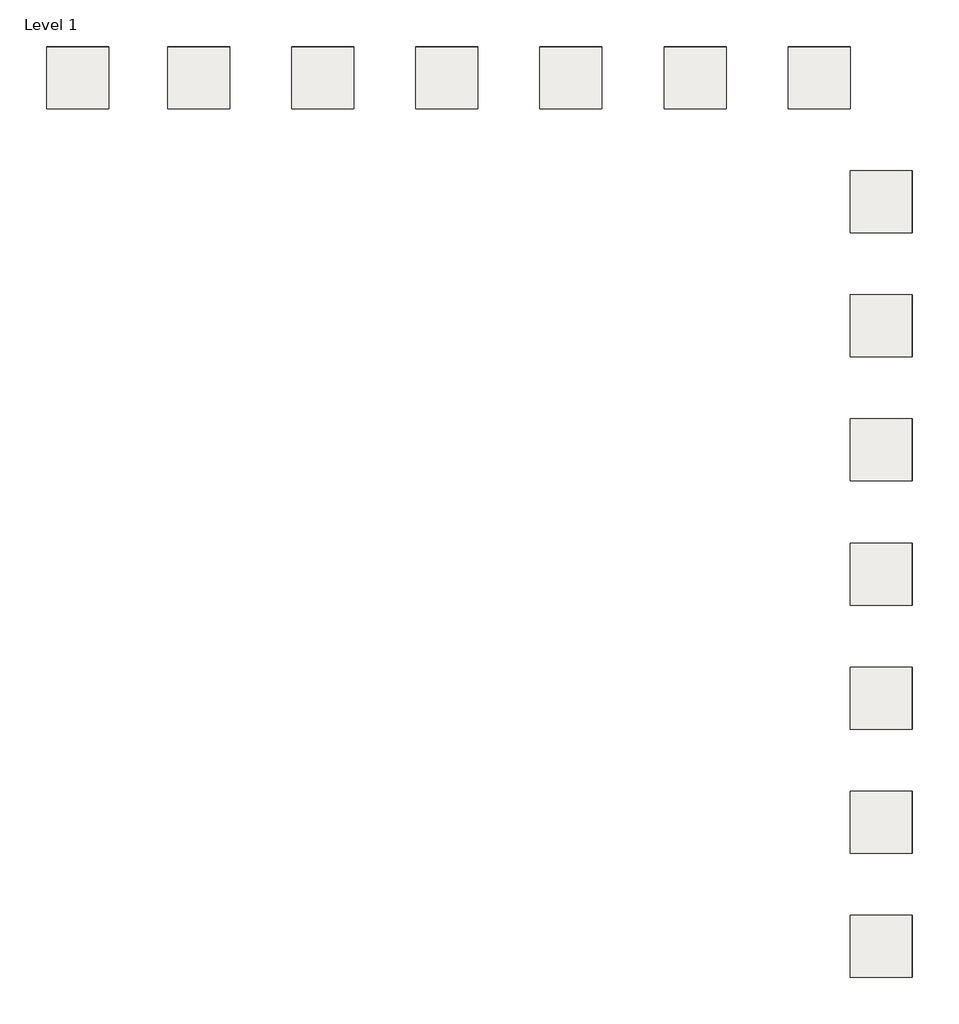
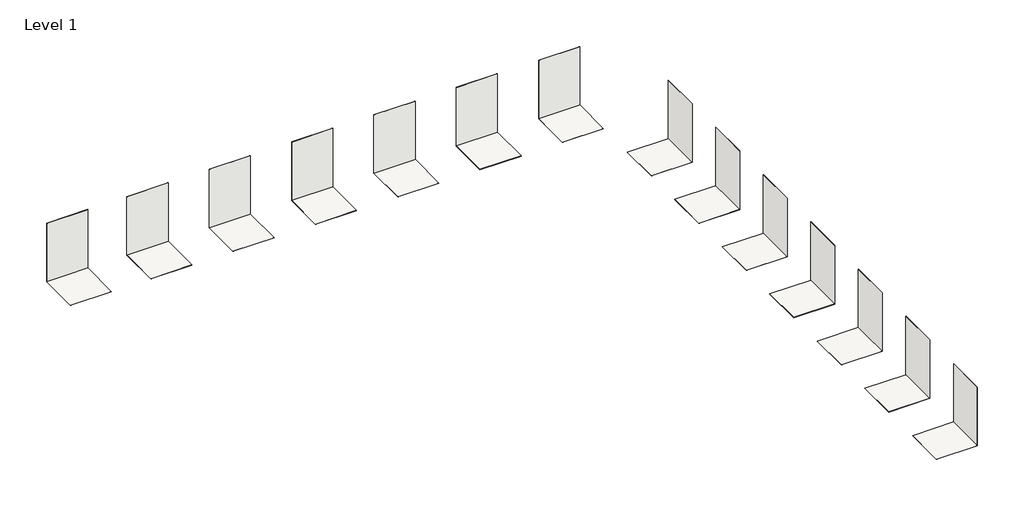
# One storey: 29 coverings.
"""IFC4 building model written with IfcOpenShell, lengths in millimetres."""

from ifc_helpers import new_model, si_unit, frame, origin, origin_with_axes, place, context, project, spatial, polyline, outline, extrude, element, save

model = new_model("IFC4")

# Units and contexts
model_context = context("Model", 3, world=origin())
ifc_project = project(units=[si_unit("LENGTHUNIT", "METRE", prefix="MILLI")], contexts=[model_context])

# Site, building, storey
site = spatial("IfcSite", under=ifc_project)
building = spatial("IfcBuilding", under=site)
storey = spatial("IfcBuildingStorey", under=building, Name="Level 1", Elevation=0.0)

# Coverings
placement = place(None, origin())
element("IfcCovering", 1, ObjectType="PGR_AnticColonial_WoodFibreBoards_Residence_Roble_Decape-193x1380mm-100176288", at=placement, inside=storey, context=model_context, shape_type="SweptSolid", body=[
    extrude(outline(polyline([(3527.0774266, -4501.9826748), (1527.0774266, -4501.9826748), (1527.0774266, -2501.9826748), (3527.0774266, -2501.9826748), (3527.0774266, -4501.9826748)])), frame((0.0, 0.0, -8.0), z_axis=(0.0, 0.0, 1.0), x_axis=(1.0, 0.0, 0.0)), (0.0, 0.0, 1.0), 8.0),
])
element("IfcCovering", 2, ObjectType="PGR_AnticColonial_WoodFibreBoards_Residence_Roble_Decape-193x1380mm-100176288", at=placement, inside=storey, context=model_context, shape_type="SweptSolid", body=[
    extrude(outline(polyline([(3519.0774266, -4501.9826748), (3519.0774266, -2501.9826748), (3527.0774266, -2501.9826748), (3527.0774266, -4501.9826748), (3519.0774266, -4501.9826748)])), origin_with_axes(), (0.0, 0.0, 1.0), 3000.0),
])
element("IfcCovering", 3, ObjectType="PGR_AnticColonial_WoodFibreBoards_Residence_Arizona-193x1380mm-100201388", at=placement, inside=storey, context=model_context, shape_type="SweptSolid", body=[
    extrude(outline(polyline([(3527.0774266, -501.9826748), (1527.0774266, -501.9826748), (1527.0774266, 1498.0173252), (3527.0774266, 1498.0173252), (3527.0774266, -501.9826748)])), frame((0.0, 0.0, -8.0), z_axis=(0.0, 0.0, 1.0), x_axis=(1.0, 0.0, 0.0)), (0.0, 0.0, 1.0), 8.0),
])
element("IfcCovering", 4, ObjectType="PGR_AnticColonial_WoodFibreBoards_Residence_Arizona-193x1380mm-100201388", at=placement, inside=storey, context=model_context, shape_type="SweptSolid", body=[
    extrude(outline(polyline([(3519.0774266, -501.9826748), (3519.0774266, 1498.0173252), (3527.0774266, 1498.0173252), (3527.0774266, -501.9826748), (3519.0774266, -501.9826748)])), origin_with_axes(), (0.0, 0.0, 1.0), 3000.0),
])
element("IfcCovering", 5, ObjectType="PGR_AnticColonial_WoodFibreBoards_Residence_Idaho-193x1380mm-100201389", at=placement, inside=storey, context=model_context, shape_type="SweptSolid", body=[
    extrude(outline(polyline([(3527.0774266, 3498.0173252), (1527.0774266, 3498.0173252), (1527.0774266, 5498.0173252), (3527.0774266, 5498.0173252), (3527.0774266, 3498.0173252)])), frame((0.0, 0.0, -8.0), z_axis=(0.0, 0.0, 1.0), x_axis=(1.0, 0.0, 0.0)), (0.0, 0.0, 1.0), 8.0),
])
element("IfcCovering", 6, ObjectType="PGR_AnticColonial_WoodFibreBoards_Residence_Idaho-193x1380mm-100201389", at=placement, inside=storey, context=model_context, shape_type="SweptSolid", body=[
    extrude(outline(polyline([(3519.0774266, 3498.0173252), (3519.0774266, 5498.0173252), (3527.0774266, 5498.0173252), (3527.0774266, 3498.0173252), (3519.0774266, 3498.0173252)])), origin_with_axes(), (0.0, 0.0, 1.0), 3000.0),
])
element("IfcCovering", 7, ObjectType="PGR_AnticColonial_WoodFibreBoards_Residence_Misuri-193x1380mm-100201397", at=placement, inside=storey, context=model_context, shape_type="SweptSolid", body=[
    extrude(outline(polyline([(3527.0774266, 7498.0173252), (1527.0774266, 7498.0173252), (1527.0774266, 9498.0173252), (3527.0774266, 9498.0173252), (3527.0774266, 7498.0173252)])), frame((0.0, 0.0, -8.0), z_axis=(0.0, 0.0, 1.0), x_axis=(1.0, 0.0, 0.0)), (0.0, 0.0, 1.0), 8.0),
])
element("IfcCovering", 8, ObjectType="PGR_AnticColonial_WoodFibreBoards_Residence_Misuri-193x1380mm-100201397", at=placement, inside=storey, context=model_context, shape_type="SweptSolid", body=[
    extrude(outline(polyline([(3519.0774266, 7498.0173252), (3519.0774266, 9498.0173252), (3527.0774266, 9498.0173252), (3527.0774266, 7498.0173252), (3519.0774266, 7498.0173252)])), origin_with_axes(), (0.0, 0.0, 1.0), 3000.0),
])
element("IfcCovering", 9, ObjectType="PGR_AnticColonial_WoodFibreBoards_Residence_Nogal-193x1380mm-100202966", at=placement, inside=storey, context=model_context, shape_type="SweptSolid", body=[
    extrude(outline(polyline([(3527.0774266, 11498.0173252), (1527.0774266, 11498.0173252), (1527.0774266, 13498.0173252), (3527.0774266, 13498.0173252), (3527.0774266, 11498.0173252)])), frame((0.0, 0.0, -8.0), z_axis=(0.0, 0.0, 1.0), x_axis=(1.0, 0.0, 0.0)), (0.0, 0.0, 1.0), 8.0),
])
element("IfcCovering", 10, ObjectType="PGR_AnticColonial_WoodFibreBoards_Residence_Nogal-193x1380mm-100202966", at=placement, inside=storey, context=model_context, shape_type="SweptSolid", body=[
    extrude(outline(polyline([(3519.0774266, 11498.0173252), (3519.0774266, 13498.0173252), (3527.0774266, 13498.0173252), (3527.0774266, 11498.0173252), (3519.0774266, 11498.0173252)])), origin_with_axes(), (0.0, 0.0, 1.0), 3000.0),
])
element("IfcCovering", 11, ObjectType="PGR_AnticColonial_WoodFibreBoards_Residence_Utah-193x1380mm-100201410", at=placement, inside=storey, context=model_context, shape_type="SweptSolid", body=[
    extrude(outline(polyline([(3527.0774266, 15498.0173252), (1527.0774266, 15498.0173252), (1527.0774266, 17498.0173252), (3527.0774266, 17498.0173252), (3527.0774266, 15498.0173252)])), frame((0.0, 0.0, -8.0), z_axis=(0.0, 0.0, 1.0), x_axis=(1.0, 0.0, 0.0)), (0.0, 0.0, 1.0), 8.0),
])
element("IfcCovering", 12, ObjectType="PGR_AnticColonial_WoodFibreBoards_Residence_Utah-193x1380mm-100201410", at=placement, inside=storey, context=model_context, shape_type="SweptSolid", body=[
    extrude(outline(polyline([(3519.0774266, 15498.0173252), (3519.0774266, 17498.0173252), (3527.0774266, 17498.0173252), (3527.0774266, 15498.0173252), (3519.0774266, 15498.0173252)])), origin_with_axes(), (0.0, 0.0, 1.0), 3000.0),
])
element("IfcCovering", 13, ObjectType="PGR_AnticColonial_WoodFibreBoards_Residence_New_Jersey-193x1380mm-100176290", at=placement, inside=storey, context=model_context, shape_type="SweptSolid", body=[
    extrude(outline(polyline([(3527.0774266, 19498.0173252), (1527.0774266, 19498.0173252), (1527.0774266, 21498.0173252), (3527.0774266, 21498.0173252), (3527.0774266, 19498.0173252)])), frame((0.0, 0.0, -8.0), z_axis=(0.0, 0.0, 1.0), x_axis=(1.0, 0.0, 0.0)), (0.0, 0.0, 1.0), 8.0),
])
element("IfcCovering", 14, ObjectType="PGR_AnticColonial_WoodFibreBoards_Residence_New_Jersey-193x1380mm-100176290", at=placement, inside=storey, context=model_context, shape_type="SweptSolid", body=[
    extrude(outline(polyline([(3519.0774266, 19498.0173252), (3519.0774266, 21498.0173252), (3527.0774266, 21498.0173252), (3527.0774266, 19498.0173252), (3519.0774266, 19498.0173252)])), origin_with_axes(), (0.0, 0.0, 1.0), 3000.0),
])
element("IfcCovering", 15, ObjectType="PGR_AnticColonial_WoodFibreBoards_Residence_Iowa-193x1380mm-100176300", at=placement, inside=storey, context=model_context, shape_type="SweptSolid", body=[
    extrude(outline(polyline([(1527.0774266, 25498.0173252), (1527.0774266, 23498.0173252), (-472.9225734, 23498.0173252), (-472.9225734, 25498.0173252), (1527.0774266, 25498.0173252)])), frame((0.0, 0.0, -8.0), z_axis=(0.0, 0.0, 1.0), x_axis=(1.0, 0.0, 0.0)), (0.0, 0.0, 1.0), 8.0),
])
element("IfcCovering", 16, ObjectType="PGR_AnticColonial_WoodFibreBoards_Residence_Iowa-193x1380mm-100176300", at=placement, inside=storey, context=model_context, shape_type="SweptSolid", body=[
    extrude(outline(polyline([(1527.0774266, 25490.0173252), (-472.9225734, 25490.0173252), (-472.9225734, 25498.0173252), (1527.0774266, 25498.0173252), (1527.0774266, 25490.0173252)])), origin_with_axes(), (0.0, 0.0, 1.0), 3000.0),
])
element("IfcCovering", 17, ObjectType="PGR_AnticColonial_WoodFibreBoards_Residence_Roble-193x1380mm-100176291", at=placement, inside=storey, context=model_context, shape_type="SweptSolid", body=[
    extrude(outline(polyline([(-2472.9225734, 25498.0173252), (-2472.9225734, 23498.0173252), (-4472.9225734, 23498.0173252), (-4472.9225734, 25498.0173252), (-2472.9225734, 25498.0173252)])), frame((0.0, 0.0, -8.0), z_axis=(0.0, 0.0, 1.0), x_axis=(1.0, 0.0, 0.0)), (0.0, 0.0, 1.0), 8.0),
])
element("IfcCovering", 18, ObjectType="PGR_AnticColonial_WoodFibreBoards_Residence_Roble-193x1380mm-100176291", at=placement, inside=storey, context=model_context, shape_type="SweptSolid", body=[
    extrude(outline(polyline([(-2472.9225734, 25490.0173252), (-4472.9225734, 25490.0173252), (-4472.9225734, 25498.0173252), (-2472.9225734, 25498.0173252), (-2472.9225734, 25490.0173252)])), origin_with_axes(), (0.0, 0.0, 1.0), 3000.0),
])
element("IfcCovering", 19, ObjectType="PGR_AnticColonial_WoodFibreBoards_Residence_Vermont-193x1380mm-100176289", at=placement, inside=storey, context=model_context, shape_type="SweptSolid", body=[
    extrude(outline(polyline([(-6472.9225734, 25498.0173252), (-6472.9225734, 23498.0173252), (-8472.9225734, 23498.0173252), (-8472.9225734, 25498.0173252), (-6472.9225734, 25498.0173252)])), frame((0.0, 0.0, -8.0), z_axis=(0.0, 0.0, 1.0), x_axis=(1.0, 0.0, 0.0)), (0.0, 0.0, 1.0), 8.0),
])
element("IfcCovering", 20, ObjectType="PGR_AnticColonial_WoodFibreBoards_Residence_Vermont-193x1380mm-100176289", at=placement, inside=storey, context=model_context, shape_type="SweptSolid", body=[
    extrude(outline(polyline([(-6472.9225734, 25490.0173252), (-8472.9225734, 25490.0173252), (-8472.9225734, 25498.0173252), (-6472.9225734, 25498.0173252), (-6472.9225734, 25490.0173252)])), origin_with_axes(), (0.0, 0.0, 1.0), 3000.0),
])
element("IfcCovering", 21, ObjectType="PGR_AnticColonial_WoodFibreBoards_Residence_Virginia-193x1380mm-100175398", at=placement, inside=storey, context=model_context, shape_type="SweptSolid", body=[
    extrude(outline(polyline([(-10472.9225734, 25498.0173252), (-10472.9225734, 23498.0173252), (-12472.9225734, 23498.0173252), (-12472.9225734, 25498.0173252), (-10472.9225734, 25498.0173252)])), frame((0.0, 0.0, -8.0), z_axis=(0.0, 0.0, 1.0), x_axis=(1.0, 0.0, 0.0)), (0.0, 0.0, 1.0), 8.0),
])
element("IfcCovering", 22, ObjectType="PGR_AnticColonial_WoodFibreBoards_Residence_Virginia-193x1380mm-100175398", at=placement, inside=storey, context=model_context, shape_type="SweptSolid", body=[
    extrude(outline(polyline([(-10472.9225734, 25490.0173252), (-12472.9225734, 25490.0173252), (-12472.9225734, 25498.0173252), (-10472.9225734, 25498.0173252), (-10472.9225734, 25490.0173252)])), origin_with_axes(), (0.0, 0.0, 1.0), 3000.0),
])
element("IfcCovering", 23, ObjectType="PGR_AnticColonial_WoodFibreBoards_Residence_Ohio-193x1380mm-100175399", at=placement, inside=storey, context=model_context, shape_type="SweptSolid", body=[
    extrude(outline(polyline([(-14472.9225734, 25498.0173252), (-14472.9225734, 23498.0173252), (-16472.9225734, 23498.0173252), (-16472.9225734, 25498.0173252), (-14472.9225734, 25498.0173252)])), frame((0.0, 0.0, -8.0), z_axis=(0.0, 0.0, 1.0), x_axis=(1.0, 0.0, 0.0)), (0.0, 0.0, 1.0), 8.0),
])
element("IfcCovering", 24, ObjectType="PGR_AnticColonial_WoodFibreBoards_Residence_Ohio-193x1380mm-100175399", at=placement, inside=storey, context=model_context, shape_type="SweptSolid", body=[
    extrude(outline(polyline([(-14472.9225734, 25490.0173252), (-16472.9225734, 25490.0173252), (-16472.9225734, 25498.0173252), (-14472.9225734, 25498.0173252), (-14472.9225734, 25490.0173252)])), origin_with_axes(), (0.0, 0.0, 1.0), 3000.0),
])
element("IfcCovering", 25, ObjectType="PGR_AnticColonial_WoodFibreBoards_Residence_Nevada-193x1380mm-100201404", at=placement, inside=storey, context=model_context, shape_type="SweptSolid", body=[
    extrude(outline(polyline([(-18472.9225734, 25498.0173252), (-18472.9225734, 23498.0173252), (-20472.9225734, 23498.0173252), (-20472.9225734, 25498.0173252), (-18472.9225734, 25498.0173252)])), frame((0.0, 0.0, -8.0), z_axis=(0.0, 0.0, 1.0), x_axis=(1.0, 0.0, 0.0)), (0.0, 0.0, 1.0), 8.0),
])
element("IfcCovering", 26, ObjectType="PGR_AnticColonial_WoodFibreBoards_Residence_Nevada-193x1380mm-100201404", at=placement, inside=storey, context=model_context, shape_type="SweptSolid", body=[
    extrude(outline(polyline([(-18472.9225734, 25490.0173252), (-20472.9225734, 25490.0173252), (-20472.9225734, 25498.0173252), (-18472.9225734, 25498.0173252), (-18472.9225734, 25490.0173252)])), origin_with_axes(), (0.0, 0.0, 1.0), 3000.0),
])
element("IfcCovering", 27, ObjectType="PGR_AnticColonial_WoodFibreBoards_Residence_Misuri-193x1380mm-100201397", at=placement, inside=storey, context=model_context, shape_type="SweptSolid", body=[
    extrude(outline(polyline([(3519.0774266, 7498.0173252), (3519.0774266, 9498.0173252), (3527.0774266, 9498.0173252), (3527.0774266, 7498.0173252), (3519.0774266, 7498.0173252)])), origin_with_axes(), (0.0, 0.0, 1.0), 3000.0),
])
element("IfcCovering", 28, ObjectType="PGR_AnticColonial_WoodFibreBoards_Residence_Maine-193x1380mm-100176301", at=placement, inside=storey, context=model_context, shape_type="SweptSolid", body=[
    extrude(outline(polyline([(-22372.9225734, 25498.0173252), (-22372.9225734, 23498.0173252), (-24372.9225734, 23498.0173252), (-24372.9225734, 25498.0173252), (-22372.9225734, 25498.0173252)])), frame((0.0, 0.0, -8.0), z_axis=(0.0, 0.0, 1.0), x_axis=(1.0, 0.0, 0.0)), (0.0, 0.0, 1.0), 8.0),
])
element("IfcCovering", 29, ObjectType="PGR_AnticColonial_WoodFibreBoards_Residence_Maine-193x1380mm-100176301", at=placement, inside=storey, context=model_context, shape_type="SweptSolid", body=[
    extrude(outline(polyline([(-22372.9225734, 25490.0173252), (-24372.9225734, 25490.0173252), (-24372.9225734, 25498.0173252), (-22372.9225734, 25498.0173252), (-22372.9225734, 25490.0173252)])), origin_with_axes(), (0.0, 0.0, 1.0), 3000.0),
])

save(model, "model.ifc")
